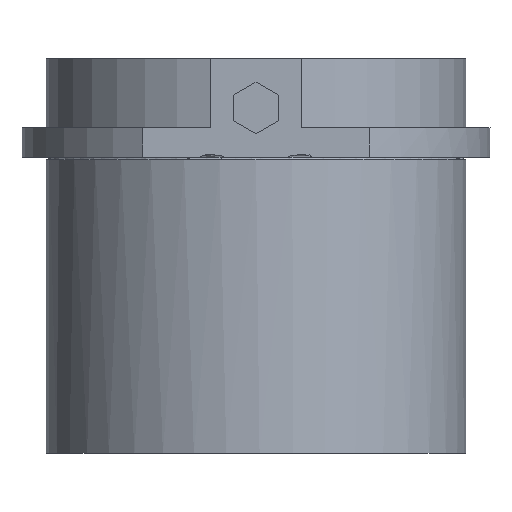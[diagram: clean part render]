
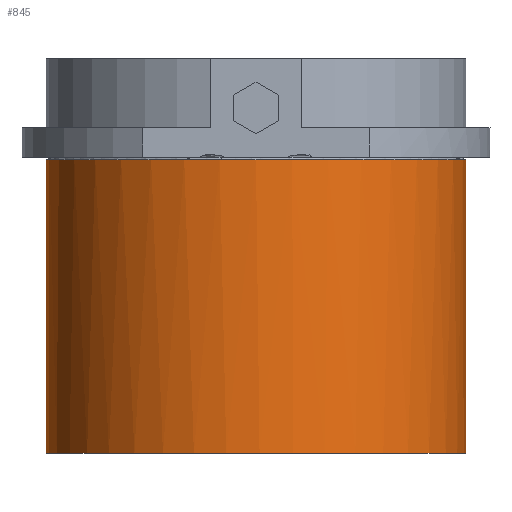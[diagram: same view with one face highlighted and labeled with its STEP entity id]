
A CAD part, front view. The second image highlights one B-rep face of the part: STEP entity #845.
In plain terms, the highlighted cylindrical face has radius 42.5 mm (diameter 85 mm), a partial arc.
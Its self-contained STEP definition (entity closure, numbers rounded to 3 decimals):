
#465=CARTESIAN_POINT('Control Point',(-42.5,0.,-60.)) ;
#466=CARTESIAN_POINT('Control Point',(-42.5,-4.152,-60.)) ;
#467=CARTESIAN_POINT('Control Point',(-41.993,-8.304,-60.)) ;
#468=CARTESIAN_POINT('Control Point',(-40.979,-12.373,-60.)) ;
#469=CARTESIAN_POINT('Control Point',(-37.978,-20.182,-60.)) ;
#470=CARTESIAN_POINT('Control Point',(-33.186,-27.038,-60.)) ;
#471=CARTESIAN_POINT('Control Point',(-30.381,-30.156,-60.)) ;
#472=CARTESIAN_POINT('Control Point',(-24.066,-35.643,-60.)) ;
#473=CARTESIAN_POINT('Control Point',(-16.617,-39.449,-60.)) ;
#474=CARTESIAN_POINT('Control Point',(-12.677,-40.886,-60.)) ;
#475=CARTESIAN_POINT('Control Point',(-4.526,-42.768,-60.)) ;
#476=CARTESIAN_POINT('Control Point',(3.838,-42.634,-60.)) ;
#477=CARTESIAN_POINT('Control Point',(7.992,-42.053,-60.)) ;
#478=CARTESIAN_POINT('Control Point',(16.073,-39.891,-60.)) ;
#479=CARTESIAN_POINT('Control Point',(23.396,-35.847,-60.)) ;
#480=CARTESIAN_POINT('Control Point',(26.791,-33.385,-60.)) ;
#481=CARTESIAN_POINT('Control Point',(32.912,-27.683,-60.)) ;
#482=CARTESIAN_POINT('Control Point',(37.481,-20.676,-60.)) ;
#483=CARTESIAN_POINT('Control Point',(39.325,-16.909,-60.)) ;
#484=CARTESIAN_POINT('Control Point',(41.279,-11.248,-60.)) ;
#485=CARTESIAN_POINT('Control Point',(42.217,-5.37,-60.)) ;
#486=CARTESIAN_POINT('Control Point',(42.406,-3.585,-60.)) ;
#487=CARTESIAN_POINT('Control Point',(42.5,-1.792,-60.)) ;
#488=CARTESIAN_POINT('Control Point',(42.5,0.,-60.)) ;
#489=CARTESIAN_POINT('Vertex',(-42.5,0.,-60.)) ;
#491=CARTESIAN_POINT('Vertex',(42.5,0.,-60.)) ;
#815=CARTESIAN_POINT('Axis2P3D Location',(0.,0.,20.)) ;
#820=CARTESIAN_POINT('Line Origine',(42.5,0.,20.)) ;
#824=CARTESIAN_POINT('Vertex',(42.5,0.,-0.5)) ;
#827=CARTESIAN_POINT('Axis2P3D Location',(0.,0.,-0.5)) ;
#831=CARTESIAN_POINT('Vertex',(-42.5,0.,-0.5)) ;
#834=CARTESIAN_POINT('Line Origine',(-42.5,0.,20.)) ;
#816=DIRECTION('Axis2P3D Direction',(0.,0.,-1.)) ;
#817=DIRECTION('Axis2P3D XDirection',(1.,0.,0.)) ;
#821=DIRECTION('Vector Direction',(0.,0.,-1.)) ;
#828=DIRECTION('Axis2P3D Direction',(0.,0.,-1.)) ;
#835=DIRECTION('Vector Direction',(0.,0.,-1.)) ;
#818=AXIS2_PLACEMENT_3D('Cylinder Axis2P3D',#815,#816,#817) ;
#829=AXIS2_PLACEMENT_3D('Circle Axis2P3D',#827,#828,$) ;
#840=ORIENTED_EDGE('',*,*,#826,.T.) ;
#841=ORIENTED_EDGE('',*,*,#833,.F.) ;
#842=ORIENTED_EDGE('',*,*,#838,.T.) ;
#843=ORIENTED_EDGE('',*,*,#493,.T.) ;
#822=VECTOR('Line Direction',#821,1.) ;
#836=VECTOR('Line Direction',#835,1.) ;
#845=ADVANCED_FACE('740-63',(#844),#819,.T.) ;
#464=B_SPLINE_CURVE_WITH_KNOTS('',5,(#465,#466,#467,#468,#469,#470,#471,#472,#473,#474,#475,#476,#477,#478,#479,#480,#481,#482,#483,#484,#485,#486,#487,#488),.UNSPECIFIED.,.F.,.U.,(6,3,3,3,3,3,3,6),(0.,29.358,58.716,88.073,117.431,146.789,176.147,188.821),.UNSPECIFIED.) ;
#830=CIRCLE('generated circle',#829,42.5) ;
#819=CYLINDRICAL_SURFACE('generated cylinder',#818,42.5) ;
#493=EDGE_CURVE('',#490,#492,#464,.T.) ;
#826=EDGE_CURVE('',#492,#825,#823,.F.) ;
#833=EDGE_CURVE('',#832,#825,#830,.F.) ;
#838=EDGE_CURVE('',#832,#490,#837,.T.) ;
#839=EDGE_LOOP('',(#840,#841,#842,#843)) ;
#844=FACE_OUTER_BOUND('',#839,.T.) ;
#823=LINE('Line',#820,#822) ;
#837=LINE('Line',#834,#836) ;
#490=VERTEX_POINT('',#489) ;
#492=VERTEX_POINT('',#491) ;
#825=VERTEX_POINT('',#824) ;
#832=VERTEX_POINT('',#831) ;
